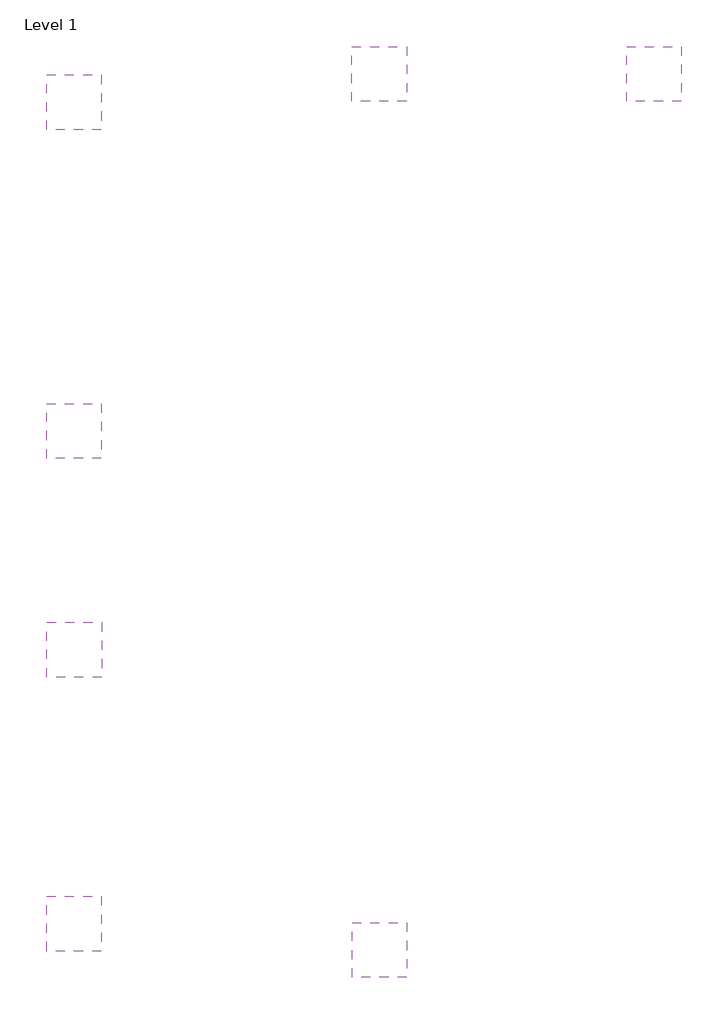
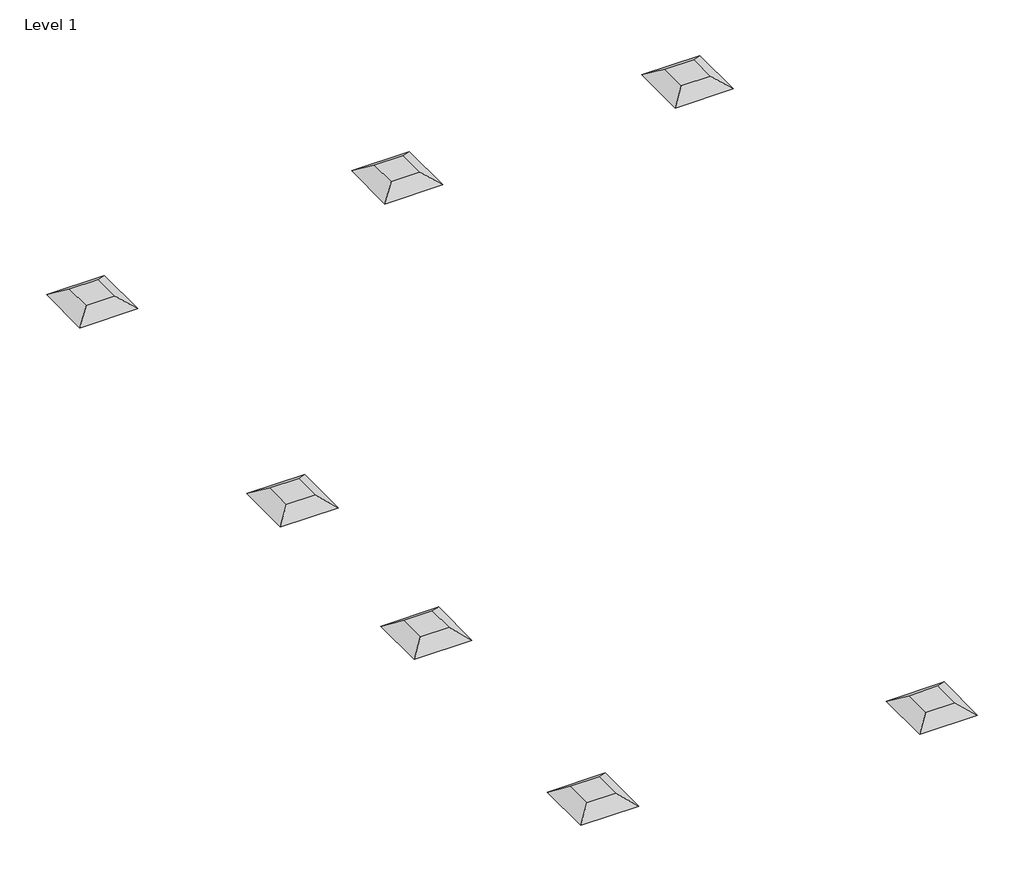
# One storey: 7 air terminals.
"""IFC4 building model written with IfcOpenShell, lengths in millimetres."""

import ifcopenshell
import ifcopenshell.guid

model = None  # the IFC model being written
_history = None  # IfcOwnerHistory: only IFC2X3 demands one
_inside = {}  # id of a spatial element -> (the spatial element, [elements in it])
_under = {}  # id of a project, library or spatial element -> (it, [spatial elements below it])
_declared = {}  # id of a project -> (the project, [libraries it declares])
_typed = {}  # id of a type object -> (the type object, [elements of that type])
_made_of = {}  # id of a material, layer set ... -> (it, [elements and type objects made of it])


def new_model(schema):
    """Start an empty IFC model of exactly this schema.

    Asked for "IFC4X3", IfcOpenShell would pick the latest addendum, in which some entities
    have other attributes; the version numbers below select the first issue.
    IFC2X3 requires an IfcOwnerHistory on every rooted entity: one is made here for all.
    """
    global model, _history
    if schema == "IFC4X3":
        model = ifcopenshell.file(schema_version=(4, 3, 0, 0))
    else:
        model = ifcopenshell.file(schema=schema)
    _inside.clear()
    _under.clear()
    _declared.clear()
    _typed.clear()
    _made_of.clear()
    _history = None
    if model.schema == "IFC2X3":
        org = make("IfcOrganization", Name="unknown")
        user = make(
            "IfcPersonAndOrganization",
            ThePerson=make("IfcPerson", FamilyName="unknown"),
            TheOrganization=org,
        )
        app = make(
            "IfcApplication",
            ApplicationDeveloper=org,
            Version="unknown",
            ApplicationFullName="unknown",
            ApplicationIdentifier="unknown",
        )
        _history = make(
            "IfcOwnerHistory",
            OwningUser=user,
            OwningApplication=app,
            ChangeAction="ADDED",
            CreationDate=0,
        )
    return model


def make(cls, **values):
    """One entity of the class cls with the attributes given. An attribute that is None is left unset."""
    return model.create_entity(
        cls, **{name: value for name, value in values.items() if value is not None}
    )


def rooted(cls, **values):
    """An entity with a GlobalId (a new one), such as an element, a storey or a relation."""
    return make(cls, GlobalId=ifcopenshell.guid.new(), OwnerHistory=_history, **values)


def si_unit(unit_type, name, prefix=None):
    """IfcSIUnit, for example si_unit("LENGTHUNIT", "METRE", prefix="MILLI")."""
    return make("IfcSIUnit", UnitType=unit_type, Prefix=prefix, Name=name)


def assignment(units):
    """IfcUnitAssignment: the units of a project."""
    return None if units is None else make("IfcUnitAssignment", Units=units)


def point(xyz):
    """IfcCartesianPoint."""
    return None if xyz is None else make("IfcCartesianPoint", Coordinates=xyz)


def direction(xyz):
    """IfcDirection."""
    return None if xyz is None else make("IfcDirection", DirectionRatios=xyz)


def frame(location, z_axis=None, x_axis=None):
    """IfcAxis2Placement3D, a coordinate frame: its origin and axes. An axis left out is left unset."""
    return make(
        "IfcAxis2Placement3D",
        Location=point(location),
        Axis=direction(z_axis),
        RefDirection=direction(x_axis),
    )


def origin():
    """The frame at (0, 0, 0) with its axes left unset."""
    return frame((0.0, 0.0, 0.0))


def place(relative_to, where):
    """IfcLocalPlacement: puts the frame where relative to a parent placement (None: the world)."""
    return make(
        "IfcLocalPlacement", PlacementRelTo=relative_to, RelativePlacement=where
    )


def context(
    kind, dimensions, precision=None, world=None, true_north=None, identifier=None
):
    """IfcGeometricRepresentationContext, for example the 3D "Model" context."""
    return make(
        "IfcGeometricRepresentationContext",
        ContextIdentifier=identifier,
        ContextType=kind,
        CoordinateSpaceDimension=dimensions,
        Precision=precision,
        WorldCoordinateSystem=world,
        TrueNorth=true_north,
    )


def project(units=None, contexts=None):
    """IfcProject with its units and contexts."""
    return rooted(
        "IfcProject",
        Name="project",
        RepresentationContexts=contexts,
        UnitsInContext=assignment(units),
    )


def spatial(cls, under=None, at=None, **own):
    """A site, building, storey or space (cls), placed at a placement, below another one or the project."""
    s = rooted(cls, ObjectPlacement=at, **own)
    if under is not None:
        _under.setdefault(under.id(), (under, []))[1].append(s)
    return s


def faces_of(points, faces, orient=None, outer=None):
    """IfcFace entities. A face is a list of loops; a loop is a list of indices into points, from 0.

    orient and outer hold one flag for each loop. By default every Orientation is true, the
    first loop of a face is its IfcFaceOuterBound and the others are IfcFaceBound.
    """
    made = []
    for i, loops in enumerate(faces):
        bounds = []
        for j, loop in enumerate(loops):
            is_outer = j == 0 if outer is None else outer[i][j]
            bounds.append(
                make(
                    "IfcFaceOuterBound" if is_outer else "IfcFaceBound",
                    Bound=make("IfcPolyLoop", Polygon=[points[k] for k in loop]),
                    Orientation=True if orient is None else orient[i][j],
                )
            )
        made.append(make("IfcFace", Bounds=bounds))
    return made


def faceted_brep(points, faces, orient=None, outer=None, voids=None):
    """IfcFacetedBrep: a solid bounded by flat faces; with voids (closed shells), ...WithVoids."""
    shared = [point(p) for p in points]
    hull = make("IfcClosedShell", CfsFaces=faces_of(shared, faces, orient, outer))
    if voids is None:
        return make("IfcFacetedBrep", Outer=hull)
    return make(
        "IfcFacetedBrepWithVoids",
        Outer=hull,
        Voids=[
            make(cls, CfsFaces=faces_of(shared, fs, o, b)) for cls, fs, o, b in voids
        ],
    )


def shape(context_of_items, identifier, shape_type, items):
    """IfcShapeRepresentation: the items that make up one representation, for example the "Body"."""
    return make(
        "IfcShapeRepresentation",
        ContextOfItems=context_of_items,
        RepresentationIdentifier=identifier,
        RepresentationType=shape_type,
        Items=items,
    )


def source(mapping_origin, context_of_items, identifier, shape_type, items):
    """IfcRepresentationMap: a shape defined once, which mapped items show again and again."""
    return make(
        "IfcRepresentationMap",
        MappingOrigin=mapping_origin,
        MappedRepresentation=shape(context_of_items, identifier, shape_type, items),
    )


def transform(
    local_origin,
    x_axis=None,
    y_axis=None,
    z_axis=None,
    scale=None,
    scale2=None,
    scale3=None,
    uniform=True,
):
    """IfcCartesianTransformationOperator3D, or its non-uniform kind. x_axis, y_axis, z_axis: its Axis1, 2, 3."""
    if uniform:
        return make(
            "IfcCartesianTransformationOperator3D",
            Axis1=direction(x_axis),
            Axis2=direction(y_axis),
            LocalOrigin=point(local_origin),
            Scale=scale,
            Axis3=direction(z_axis),
        )
    return make(
        "IfcCartesianTransformationOperator3DnonUniform",
        Axis1=direction(x_axis),
        Axis2=direction(y_axis),
        LocalOrigin=point(local_origin),
        Scale=scale,
        Axis3=direction(z_axis),
        Scale2=scale2,
        Scale3=scale3,
    )


def mapped(mapping_source, mapping_target):
    """IfcMappedItem: shows the shape of a source again, moved by a transform."""
    return make(
        "IfcMappedItem", MappingSource=mapping_source, MappingTarget=mapping_target
    )


def made_of(thing, what):
    """Note that an element or type object is made of a material, layer set ...; save() writes the relation."""
    if what is not None:
        _made_of.setdefault(what.id(), (what, []))[1].append(thing)
    return thing


def element(
    cls,
    number,
    at=None,
    inside=None,
    cuts=None,
    type_object=None,
    material=None,
    context=None,
    identifier="Body",
    shape_type=None,
    held_by="IfcProductDefinitionShape",
    body=None,
    shapes=None,
    **own,
):
    """One element of the class cls, such as IfcWall. Its Tag is "e" and its number.

    at: its placement. inside: the storey or other place that contains it. cuts: it is an
    opening in that element (IfcRelVoidsElement). A single representation is given by context,
    identifier, shape_type and body (its items); several are given by shapes. held_by: the class
    of the entity that holds the representations. save() writes the other relations.
    """
    e = rooted(cls, Tag="e%d" % number, ObjectPlacement=at, **own)
    if body is not None:
        shapes = [shape(context, identifier, shape_type, body)]
    if shapes is not None:
        e.Representation = make(held_by, Representations=shapes)
    if inside is not None:
        _inside.setdefault(inside.id(), (inside, []))[1].append(e)
    if cuts is not None:
        rooted(
            "IfcRelVoidsElement", RelatingBuildingElement=cuts, RelatedOpeningElement=e
        )
    if type_object is not None:
        _typed.setdefault(type_object.id(), (type_object, []))[1].append(e)
    return made_of(e, material)


def aggregate(whole, parts):
    """IfcRelAggregates: a whole, such as a stair, and the parts it consists of."""
    return rooted("IfcRelAggregates", RelatingObject=whole, RelatedObjects=parts)


def save(model, path):
    """Write the relations noted so far, then the file.

    IfcRelAggregates (storeys below a building ...), IfcRelContainedInSpatialStructure (elements
    in a storey), IfcRelDefinesByType, IfcRelAssociatesMaterial and IfcRelDeclares: one each for
    every whole, place, type object, material and project.
    """
    for whole, parts in _under.values():
        aggregate(whole, parts)
    for where, things in _inside.values():
        rooted(
            "IfcRelContainedInSpatialStructure",
            RelatedElements=things,
            RelatingStructure=where,
        )
    for kind, things in _typed.values():
        rooted("IfcRelDefinesByType", RelatedObjects=things, RelatingType=kind)
    for what, things in _made_of.values():
        rooted("IfcRelAssociatesMaterial", RelatedObjects=things, RelatingMaterial=what)
    for by, libraries in _declared.values():
        rooted("IfcRelDeclares", RelatingContext=by, RelatedDefinitions=libraries)
    model.write(path)


def exhaust_diffuser_hosted_workplane_based_exhaust_diffuser_7695a80a(model_context):
    return source(origin(), model_context, "Body", "Brep", [
        faceted_brep([(304.8, 304.8, 0.0), (-304.8, 304.8, 0.0), (-304.8, -304.8, 0.0), (304.8, -304.8, 0.0), (152.4, 152.4, -101.8523776), (152.4, -152.4, -101.8523776), (-152.4, -152.4, -101.8523776), (-152.4, 152.4, -101.8523776)], [[[0, 1, 2, 3]], [[4, 5, 6, 7]], [[4, 7, 1, 0]], [[7, 6, 2, 1]], [[6, 5, 3, 2]], [[5, 4, 0, 3]]]),
    ])


model = new_model("IFC4")

# Units and contexts
model_context = context("Model", 3, world=origin())
ifc_project = project(units=[si_unit("LENGTHUNIT", "METRE", prefix="MILLI")], contexts=[model_context])

# Site, building, storey
site = spatial("IfcSite", under=ifc_project)
building = spatial("IfcBuilding", under=site)
storey = spatial("IfcBuildingStorey", under=building, Name="Level 1", Elevation=0.0)

# Air terminals
placement = place(None, origin())
exhaust_diffuser_hosted_workplane_based_exhaust_diffuser_shape = exhaust_diffuser_hosted_workplane_based_exhaust_diffuser_7695a80a(model_context)
element("IfcAirTerminal", 1, ObjectType="Exhaust Diffuser - Hosted : Workplane-based Exhaust Diffuser", at=placement, inside=storey, context=model_context, shape_type="MappedRepresentation", body=[
    mapped(exhaust_diffuser_hosted_workplane_based_exhaust_diffuser_shape, transform((-31843.265324, 21137.2496511, 2514.6), x_axis=(0.0, -1.0, 0.0), y_axis=(-1.0, 0.0, 0.0), z_axis=(0.0, 0.0, -1.0))),
])
element("IfcAirTerminal", 2, ObjectType="Return Diffuser - Hosted : Workplane-based Return Diffuser", at=placement, inside=storey, context=model_context, shape_type="MappedRepresentation", body=[
    mapped(exhaust_diffuser_hosted_workplane_based_exhaust_diffuser_shape, transform((-34903.0551146, 21137.2496511, 2514.6), x_axis=(0.0, -1.0, 0.0), y_axis=(-1.0, 0.0, 0.0), z_axis=(0.0, 0.0, -1.0))),
])
element("IfcAirTerminal", 3, ObjectType="Return Diffuser - Hosted : Workplane-based Return Diffuser", at=placement, inside=storey, context=model_context, shape_type="MappedRepresentation", body=[
    mapped(exhaust_diffuser_hosted_workplane_based_exhaust_diffuser_shape, transform((-34899.202824, 11383.14154, 2514.6), x_axis=(0.0, -1.0, 0.0), y_axis=(-1.0, 0.0, 0.0), z_axis=(0.0, 0.0, -1.0))),
])
element("IfcAirTerminal", 4, ObjectType="Supply Diffuser - Hosted : Workplane-based Supply Diffuser", at=placement, inside=storey, context=model_context, shape_type="MappedRepresentation", body=[
    mapped(exhaust_diffuser_hosted_workplane_based_exhaust_diffuser_shape, transform((-38300.9956561, 20820.6240985, 2514.6), x_axis=(-1.0, 0.0, 0.0), y_axis=(0.0, 1.0, 0.0), z_axis=(0.0, 0.0, -1.0))),
])
element("IfcAirTerminal", 5, ObjectType="Supply Diffuser - Hosted : Workplane-based Supply Diffuser", at=placement, inside=storey, context=model_context, shape_type="MappedRepresentation", body=[
    mapped(exhaust_diffuser_hosted_workplane_based_exhaust_diffuser_shape, transform((-38300.9956561, 17163.0240985, 2514.6), x_axis=(-1.0, 0.0, 0.0), y_axis=(0.0, 1.0, 0.0), z_axis=(0.0, 0.0, -1.0))),
])
element("IfcAirTerminal", 6, ObjectType="Supply Diffuser - Hosted : Workplane-based Supply Diffuser", at=placement, inside=storey, context=model_context, shape_type="MappedRepresentation", body=[
    mapped(exhaust_diffuser_hosted_workplane_based_exhaust_diffuser_shape, transform((-38297.246574, 14725.62279, 2514.6), x_axis=(-1.0, 0.0, 0.0), y_axis=(0.0, 1.0, 0.0), z_axis=(0.0, 0.0, -1.0))),
])
element("IfcAirTerminal", 7, ObjectType="Supply Diffuser - Hosted : Workplane-based Supply Diffuser", at=placement, inside=storey, context=model_context, shape_type="MappedRepresentation", body=[
    mapped(exhaust_diffuser_hosted_workplane_based_exhaust_diffuser_shape, transform((-38300.9956561, 11676.6240985, 2514.6), x_axis=(-1.0, 0.0, 0.0), y_axis=(0.0, 1.0, 0.0), z_axis=(0.0, 0.0, -1.0))),
])

save(model, "model.ifc")
